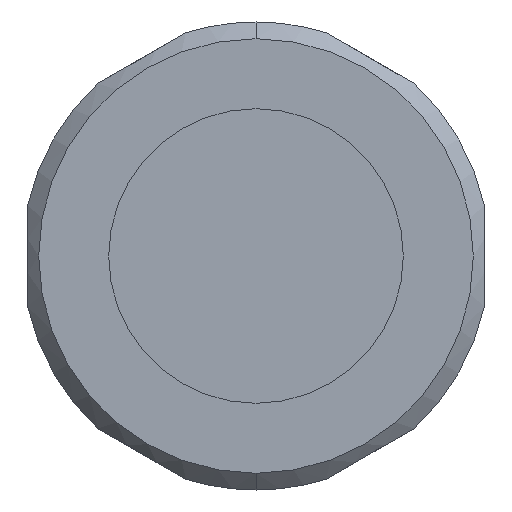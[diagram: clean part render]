
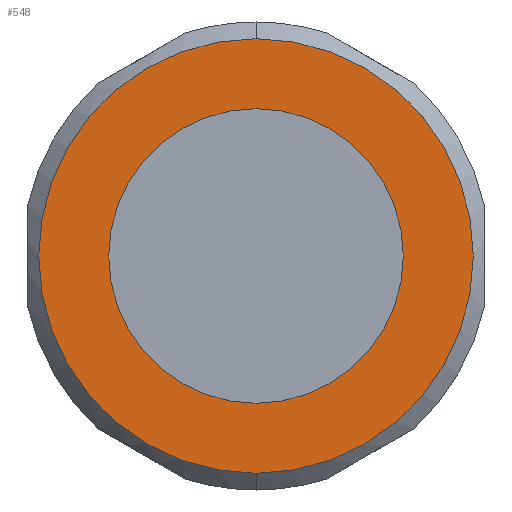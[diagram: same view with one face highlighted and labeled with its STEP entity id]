
A CAD part, front view. The second image highlights one B-rep face of the part: STEP entity #548.
In plain terms, the highlighted planar face has unit normal (0, -1, 0).
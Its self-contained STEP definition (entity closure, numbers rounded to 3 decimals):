
#21 = DIRECTION ( 'NONE',  ( 0., -1., 0. ) ) ;
#31 = DIRECTION ( 'NONE',  ( 0., -1., 0. ) ) ;
#44 = CARTESIAN_POINT ( 'NONE',  ( 0., 0., 0. ) ) ;
#45 = CARTESIAN_POINT ( 'NONE',  ( 0., 0., 0. ) ) ;
#137 = DIRECTION ( 'NONE',  ( 0., 0., 1. ) ) ;
#187 = DIRECTION ( 'NONE',  ( 0., 0., -1. ) ) ;
#246 = CARTESIAN_POINT ( 'NONE',  ( 0., 0., 19.5 ) ) ;
#264 = CARTESIAN_POINT ( 'NONE',  ( 0., 0., 0. ) ) ;
#273 = CARTESIAN_POINT ( 'NONE',  ( 0., 0., -13.22 ) ) ;
#274 = DIRECTION ( 'NONE',  ( 0., -1., 0. ) ) ;
#299 = DIRECTION ( 'NONE',  ( 0., 0., 1. ) ) ;
#340 = CARTESIAN_POINT ( 'NONE',  ( 0., 0., -19.5 ) ) ;
#362 = CARTESIAN_POINT ( 'NONE',  ( 0., 0., 13.22 ) ) ;
#399 = AXIS2_PLACEMENT_3D ( 'NONE', #1059, #1060, #1061 ) ;
#400 = CIRCLE ( 'NONE', #410, 13.22 ) ;
#410 = AXIS2_PLACEMENT_3D ( 'NONE', #44, #31, #187 ) ;
#416 = CIRCLE ( 'NONE', #457, 19.5 ) ;
#430 = AXIS2_PLACEMENT_3D ( 'NONE', #264, #274, #299 ) ;
#455 = CIRCLE ( 'NONE', #399, 13.22 ) ;
#457 = AXIS2_PLACEMENT_3D ( 'NONE', #45, #21, #137 ) ;
#518 = CIRCLE ( 'NONE', #430, 19.5 ) ;
#537 = AXIS2_PLACEMENT_3D ( 'NONE', #1048, #719, #965 ) ;
#544 = EDGE_CURVE ( 'NONE', #779, #968, #455, .T. ) ;
#548 = ADVANCED_FACE ( 'NONE', ( #1064, #1055 ), #1062, .F. ) ;
#618 = EDGE_CURVE ( 'NONE', #968, #779, #400, .T. ) ;
#639 = EDGE_CURVE ( 'NONE', #838, #809, #416, .T. ) ;
#641 = EDGE_CURVE ( 'NONE', #809, #838, #518, .T. ) ;
#661 = ORIENTED_EDGE ( 'NONE', *, *, #641, .T. ) ;
#697 = ORIENTED_EDGE ( 'NONE', *, *, #639, .T. ) ;
#718 = EDGE_LOOP ( 'NONE', ( #661, #697 ) ) ;
#719 = DIRECTION ( 'NONE',  ( 0., 1., 0. ) ) ;
#779 = VERTEX_POINT ( 'NONE', #273 ) ;
#791 = ORIENTED_EDGE ( 'NONE', *, *, #618, .F. ) ;
#809 = VERTEX_POINT ( 'NONE', #246 ) ;
#835 = ORIENTED_EDGE ( 'NONE', *, *, #544, .F. ) ;
#838 = VERTEX_POINT ( 'NONE', #340 ) ;
#871 = EDGE_LOOP ( 'NONE', ( #835, #791 ) ) ;
#965 = DIRECTION ( 'NONE',  ( 0., 0., 1. ) ) ;
#968 = VERTEX_POINT ( 'NONE', #362 ) ;
#1048 = CARTESIAN_POINT ( 'NONE',  ( 0., 0., 0. ) ) ;
#1055 = FACE_OUTER_BOUND ( 'NONE', #718, .T. ) ;
#1059 = CARTESIAN_POINT ( 'NONE',  ( 0., 0., 0. ) ) ;
#1060 = DIRECTION ( 'NONE',  ( 0., -1., 0. ) ) ;
#1061 = DIRECTION ( 'NONE',  ( 0., 0., -1. ) ) ;
#1062 = PLANE ( 'NONE',  #537 ) ;
#1064 = FACE_BOUND ( 'NONE', #871, .T. ) ;
